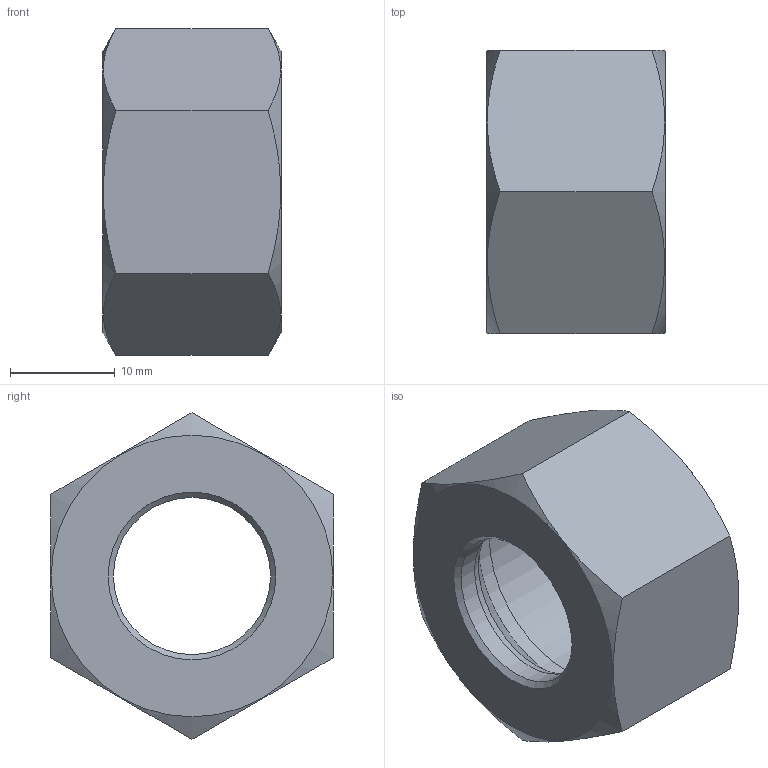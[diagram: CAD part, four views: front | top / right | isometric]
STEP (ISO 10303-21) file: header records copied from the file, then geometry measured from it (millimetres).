
FILE_DESCRIPTION( ( 'Unknown' ), '1' );
FILE_NAME( 'C:/Users/p.nanko/Desktop/3D SR/M15L.stp', 'Unknown', ( 'Peter Nanko' ), ( 'Armaturen Arndt' ), 'PSStep 14.0', 'Solid Edge ST4', ' ' );
FILE_SCHEMA( ( 'AUTOMOTIVE_DESIGN { 1 0 10303 214 1 1 1 1 }' ) );
Length unit declared in the file: millimetre
Products named in the file (1): 1
Bounding box: 17 x 27 x 31.18 mm (x, y, z)
Volume: 5754.7 mm3; surface area: 3330.6 mm2
Topology: 1 solids, 1 shells, 17 faces, 39 edges, 24 vertices
Faces by surface type: plane 8, cone 6, cylinder 3
Full cylindrical faces by diameter (mm): 15 x1, 20.376 x2
Entity records: 676 total; most frequent: CARTESIAN_POINT 200, DIRECTION 62, ORIENTED_EDGE 56, AXIS2_PLACEMENT_3D 28, EDGE_LOOP 28, EDGE_CURVE 28, VERTEX_POINT 22, FACE_OUTER_BOUND 20
